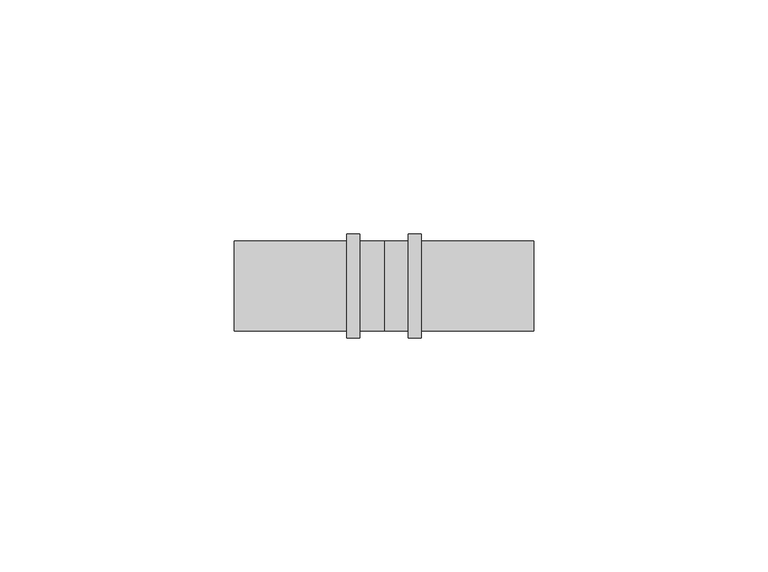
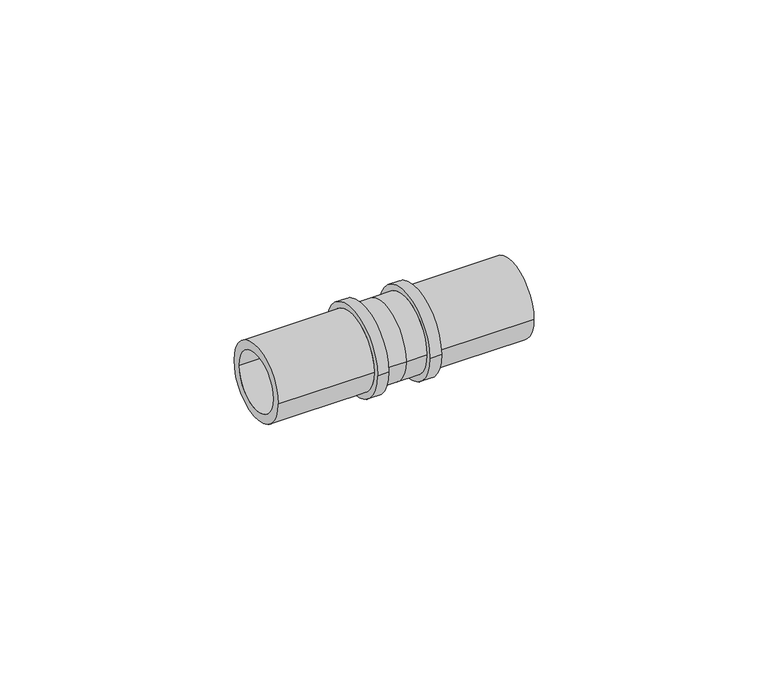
"""IFC4 building model written with IfcOpenShell, lengths in millimetres: pipe fitting geometry, FASTLOC_Coupling equal LX : FSL C LX PL."""

from ifc_helpers import new_model, si_unit, frame, origin, place, context, project, spatial, polyline, circle_curve, source, transform, mapped, element, save
from ifc_brep_helpers import plane_surface, cylinder_surface, revolved_surface, advanced_brep


def pipe_fitting_f0f965a3(model_context):
    return source(origin(), model_context, "Body", "AdvancedBrep", [
        advanced_brep(
        [(8.0, 11.1, 0.0), (8.0, -11.1, 0.0), (5.2, -11.1, 0.0), (5.2, 11.1, 0.0), (32.0, 9.6, 0.0), (32.0, -9.6, 0.0), (8.0, -9.6, 0.0), (8.0, 9.6, 0.0), (-32.0, 7.35, 0.0), (-32.0, -7.35, 0.0), (32.0, -7.35, 0.0), (32.0, 7.35, 0.0), (-8.0, 9.6, 0.0), (-8.0, -9.6, 0.0), (-32.0, -9.6, 0.0), (-32.0, 9.6, 0.0), (-5.2, 11.1, 0.0), (-5.2, -11.1, 0.0), (-8.0, -11.1, 0.0), (-8.0, 11.1, 0.0), (0.0, 9.6, 0.0), (0.0, -9.6, 0.0), (-5.2, -9.6, 0.0), (-5.2, 9.6, 0.0), (5.2, 9.6, 0.0), (5.2, -9.6, 0.0)],
        [
            (0, 1, circle_curve(frame((8.0, 0.0, 0.0), z_axis=(-1.0, 0.0, 0.0), x_axis=(0.0, -1.0, 0.0)), 11.1)),
            (1, 2),
            (2, 3, circle_curve(frame((5.2, 0.0, 0.0), z_axis=(1.0, 0.0, 0.0), x_axis=(0.0, -1.0, 0.0)), 11.1)),
            (3, 0),
            (4, 5, circle_curve(frame((32.0, 0.0, 0.0), z_axis=(-1.0, 0.0, 0.0), x_axis=(0.0, -1.0, 0.0)), 9.6)),
            (5, 6),
            (6, 7, circle_curve(frame((8.0, 0.0, 0.0), z_axis=(1.0, 0.0, 0.0), x_axis=(0.0, -1.0, 0.0)), 9.6)),
            (7, 4),
            (8, 9, circle_curve(frame((-32.0, 0.0, 0.0), z_axis=(-1.0, 0.0, 0.0), x_axis=(0.0, -1.0, 0.0)), 7.35)),
            (9, 10),
            (10, 11, circle_curve(frame((32.0, 0.0, 0.0), z_axis=(1.0, 0.0, 0.0), x_axis=(0.0, -1.0, 0.0)), 7.35)),
            (11, 8),
            (12, 13, circle_curve(frame((-8.0, 0.0, 0.0), z_axis=(-1.0, 0.0, 0.0), x_axis=(0.0, -1.0, 0.0)), 9.6)),
            (13, 14),
            (14, 15, circle_curve(frame((-32.0, 0.0, 0.0), z_axis=(1.0, 0.0, 0.0), x_axis=(0.0, -1.0, 0.0)), 9.6)),
            (15, 12),
            (16, 17, circle_curve(frame((-5.2, 0.0, 0.0), z_axis=(-1.0, 0.0, 0.0), x_axis=(0.0, -1.0, 0.0)), 11.1)),
            (17, 18),
            (18, 19, circle_curve(frame((-8.0, 0.0, 0.0), z_axis=(1.0, 0.0, 0.0), x_axis=(0.0, -1.0, 0.0)), 11.1)),
            (19, 16),
            (20, 21, circle_curve(frame((0.0, 0.0, 0.0), z_axis=(-1.0, 0.0, 0.0), x_axis=(0.0, -1.0, 0.0)), 9.6)),
            (21, 22),
            (22, 23, circle_curve(frame((-5.2, 0.0, 0.0), z_axis=(1.0, 0.0, 0.0), x_axis=(0.0, -1.0, 0.0)), 9.6)),
            (23, 20),
            (24, 25, circle_curve(frame((5.2, 0.0, 0.0), z_axis=(-1.0, 0.0, 0.0), x_axis=(0.0, -1.0, 0.0)), 9.6)),
            (25, 21),
            (20, 24),
            (1, 0, circle_curve(frame((8.0, 0.0, 0.0), z_axis=(-1.0, 0.0, 0.0), x_axis=(0.0, 1.0, 0.0)), 11.1)),
            (3, 2, circle_curve(frame((5.2, 0.0, 0.0), z_axis=(1.0, 0.0, 0.0), x_axis=(0.0, 1.0, 0.0)), 11.1)),
            (6, 7, circle_curve(frame((8.0, 0.0, 0.0), z_axis=(-1.0, 0.0, 0.0), x_axis=(0.0, 1.0, 0.0)), 9.6)),
            (5, 4, circle_curve(frame((32.0, 0.0, 0.0), z_axis=(-1.0, 0.0, 0.0), x_axis=(0.0, 1.0, 0.0)), 9.6)),
            (10, 11, circle_curve(frame((32.0, 0.0, 0.0), z_axis=(-1.0, 0.0, 0.0), x_axis=(0.0, 1.0, 0.0)), 7.35)),
            (9, 8, circle_curve(frame((-32.0, 0.0, 0.0), z_axis=(-1.0, 0.0, 0.0), x_axis=(0.0, 1.0, 0.0)), 7.35)),
            (14, 15, circle_curve(frame((-32.0, 0.0, 0.0), z_axis=(-1.0, 0.0, 0.0), x_axis=(0.0, 1.0, 0.0)), 9.6)),
            (13, 12, circle_curve(frame((-8.0, 0.0, 0.0), z_axis=(-1.0, 0.0, 0.0), x_axis=(0.0, 1.0, 0.0)), 9.6)),
            (18, 19, circle_curve(frame((-8.0, 0.0, 0.0), z_axis=(-1.0, 0.0, 0.0), x_axis=(0.0, 1.0, 0.0)), 11.1)),
            (17, 16, circle_curve(frame((-5.2, 0.0, 0.0), z_axis=(-1.0, 0.0, 0.0), x_axis=(0.0, 1.0, 0.0)), 11.1)),
            (22, 23, circle_curve(frame((-5.2, 0.0, 0.0), z_axis=(-1.0, 0.0, 0.0), x_axis=(0.0, 1.0, 0.0)), 9.6)),
            (21, 20, circle_curve(frame((0.0, 0.0, 0.0), z_axis=(-1.0, 0.0, 0.0), x_axis=(0.0, 1.0, 0.0)), 9.6)),
            (25, 24, circle_curve(frame((5.2, 0.0, 0.0), z_axis=(-1.0, 0.0, 0.0), x_axis=(0.0, 1.0, 0.0)), 9.6)),
        ],
        [
            cylinder_surface(frame((0.0, 0.0, 0.0), z_axis=(1.0, 0.0, 0.0), x_axis=(0.0, -1.0, 0.0)), 11.1),
            cylinder_surface(frame((0.0, 0.0, 0.0), z_axis=(1.0, 0.0, 0.0), x_axis=(0.0, -1.0, 0.0)), 9.6),
            revolved_surface(polyline([(32.0, -7.35, 0.0), (-32.0, -7.35, 0.0)]), (0.0, 0.0, 0.0), (1.0, 0.0, 0.0)),
            cylinder_surface(frame((0.0, 0.0, 0.0), z_axis=(1.0, 0.0, 0.0), x_axis=(0.0, 1.0, 0.0)), 11.1),
            plane_surface(frame((8.0, 0.0, 0.0), z_axis=(1.0, 0.0, 0.0), x_axis=(0.0, 1.0, 0.0))),
            cylinder_surface(frame((0.0, 0.0, 0.0), z_axis=(1.0, 0.0, 0.0), x_axis=(0.0, 1.0, 0.0)), 9.6),
            plane_surface(frame((32.0, 0.0, 0.0), z_axis=(1.0, 0.0, 0.0), x_axis=(0.0, 1.0, 0.0))),
            revolved_surface(polyline([(32.0, 7.35, 0.0), (-32.0, 7.35, 0.0)]), (0.0, 0.0, 0.0), (1.0, 0.0, 0.0)),
            plane_surface(frame((-32.0, 0.0, 0.0), z_axis=(-1.0, 0.0, 0.0), x_axis=(0.0, 1.0, 0.0))),
            plane_surface(frame((-8.0, 0.0, 0.0), z_axis=(-1.0, 0.0, 0.0), x_axis=(0.0, 1.0, 0.0))),
            plane_surface(frame((-5.2, 0.0, 0.0), z_axis=(1.0, 0.0, 0.0), x_axis=(0.0, 1.0, 0.0))),
            plane_surface(frame((5.2, 0.0, 0.0), z_axis=(-1.0, 0.0, 0.0), x_axis=(0.0, 1.0, 0.0))),
        ],
        [
            (0, [[1, 2, 3, 4]]),
            (1, [[5, 6, 7, 8]]),
            (2, [[9, 10, 11, 12]]),
            (1, [[13, 14, 15, 16]]),
            (0, [[17, 18, 19, 20]]),
            (1, [[21, 22, 23, 24]]),
            (1, [[25, 26, -21, 27]]),
            (3, [[28, -4, 29, -2]]),
            (4, [[-28, -1], [30, -7]]),
            (5, [[31, -8, -30, -6]]),
            (6, [[-31, -5], [32, -11]]),
            (7, [[33, -12, -32, -10]]),
            (8, [[34, -15], [-33, -9]]),
            (5, [[35, -16, -34, -14]]),
            (9, [[36, -19], [-35, -13]]),
            (3, [[37, -20, -36, -18]]),
            (10, [[-37, -17], [38, -23]]),
            (5, [[39, -24, -38, -22]]),
            (5, [[40, -27, -39, -26]]),
            (11, [[-29, -3], [-40, -25]]),
        ],
    ),
    ])


if __name__ == "__main__":
    model = new_model("IFC4")
    model_context = context("Model", 3, world=origin())
    ifc_project = project(units=[si_unit("LENGTHUNIT", "METRE", prefix="MILLI")], contexts=[model_context])
    site = spatial("IfcSite", under=ifc_project)
    building = spatial("IfcBuilding", under=site)
    placement = place(None, origin())
    pipe_fitting_shape = pipe_fitting_f0f965a3(model_context)
    element("IfcPipeFitting", 1, ObjectType="FASTLOC_Coupling equal LX : FSL C LX PL", at=placement, inside=building, context=model_context, shape_type="MappedRepresentation", body=[
        mapped(pipe_fitting_shape, transform((0.0, 0.0, 0.0), x_axis=(1.0, 0.0, 0.0), y_axis=(0.0, 1.0, 0.0), z_axis=(0.0, 0.0, 1.0))),
    ])
    save(model, "model.ifc")
